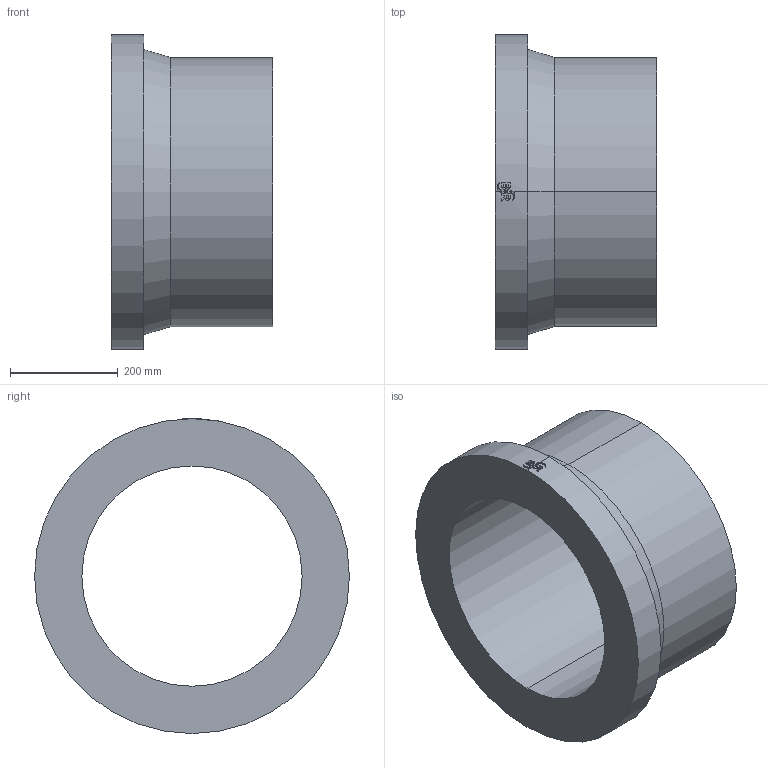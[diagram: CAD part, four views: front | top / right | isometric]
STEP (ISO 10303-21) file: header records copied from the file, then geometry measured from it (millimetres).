
FILE_DESCRIPTION (( 'STEP AP214' ), '1' );
FILE_NAME ('233527F015.STEP', '2018-07-20T10:18:33', ( '' ), ( '' ), 'SwSTEP 2.0', 'SolidWorks 2017', '' );
FILE_SCHEMA (( 'AUTOMOTIVE_DESIGN' ));
Length unit declared in the file: millimetre
Products named in the file (1): 233527F015
Bounding box: 300 x 585 x 585.5 mm (x, y, z)
Volume: 24398682.1 mm3; surface area: 1129262.3 mm2
Topology: 1 solids, 1 shells, 60 faces, 154 edges, 102 vertices
Faces by surface type: cylinder 29, plane 29, cone 2
Entity records: 3070 total; most frequent: CARTESIAN_POINT 953, ORIENTED_EDGE 308, DIRECTION 282, EDGE_CURVE 154, AXIS2_PLACEMENT_3D 107, VERTEX_POINT 102, VECTOR 68, LINE 68
